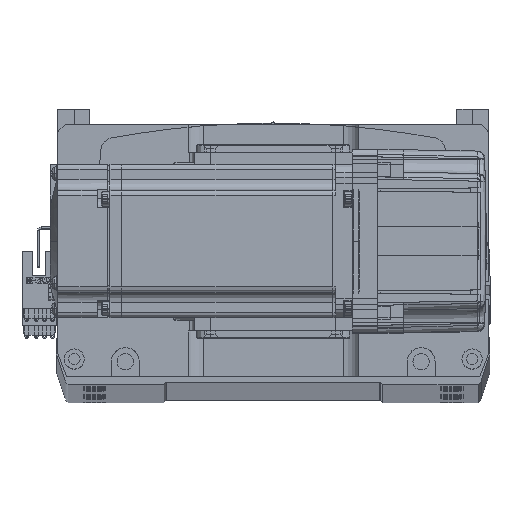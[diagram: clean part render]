
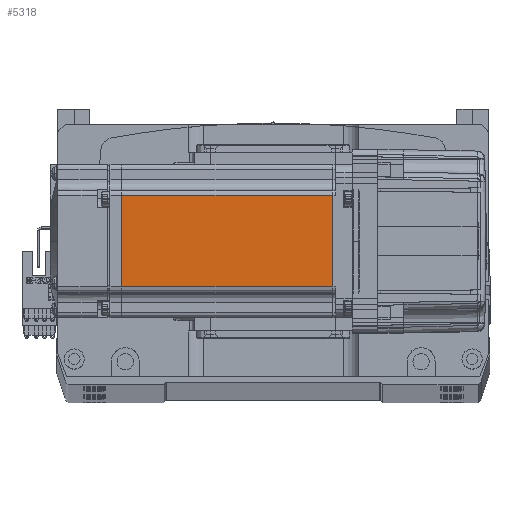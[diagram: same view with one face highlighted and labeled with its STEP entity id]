
A CAD part, top view. The second image highlights one B-rep face of the part: STEP entity #5318.
In plain terms, the highlighted planar face has unit normal (0, 0, 1).
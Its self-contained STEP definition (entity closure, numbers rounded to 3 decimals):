
#3346 = EDGE_CURVE ( 'NONE', #3521, #61384, #14240, .T. ) ;
#3521 = VERTEX_POINT ( 'NONE', #52828 ) ;
#4396 = VECTOR ( 'NONE', #50860, 1000. ) ;
#5318 = ADVANCED_FACE ( 'NONE', ( #5755 ), #22560, .T. ) ;
#5755 = FACE_OUTER_BOUND ( 'NONE', #68441, .T. ) ;
#10872 = EDGE_CURVE ( 'NONE', #41027, #48404, #28262, .T. ) ;
#10911 = DIRECTION ( 'NONE',  ( 0., 0., 1. ) ) ;
#11793 = AXIS2_PLACEMENT_3D ( 'NONE', #33220, #10911, #28409 ) ;
#12880 = EDGE_CURVE ( 'NONE', #61384, #48404, #65884, .T. ) ;
#14240 = LINE ( 'NONE', #67937, #37790 ) ;
#15272 = ORIENTED_EDGE ( 'NONE', *, *, #12880, .T. ) ;
#20749 = DIRECTION ( 'NONE',  ( -1., 0., 0. ) ) ;
#20957 = DIRECTION ( 'NONE',  ( -1., 0., 0. ) ) ;
#22560 = PLANE ( 'NONE',  #11793 ) ;
#28262 = LINE ( 'NONE', #50147, #32762 ) ;
#28409 = DIRECTION ( 'NONE',  ( 1., 0., 0. ) ) ;
#32762 = VECTOR ( 'NONE', #20749, 1000. ) ;
#33220 = CARTESIAN_POINT ( 'NONE',  ( -6.5, -25., 30. ) ) ;
#35819 = DIRECTION ( 'NONE',  ( 0., -1., 0. ) ) ;
#37790 = VECTOR ( 'NONE', #20957, 1000. ) ;
#37798 = ORIENTED_EDGE ( 'NONE', *, *, #3346, .T. ) ;
#41027 = VERTEX_POINT ( 'NONE', #55324 ) ;
#43154 = VECTOR ( 'NONE', #35819, 1000. ) ;
#48404 = VERTEX_POINT ( 'NONE', #62162 ) ;
#50147 = CARTESIAN_POINT ( 'NONE',  ( -6.5, -18., 30. ) ) ;
#50531 = CARTESIAN_POINT ( 'NONE',  ( -90.45, 18., 30. ) ) ;
#50860 = DIRECTION ( 'NONE',  ( 0., -1., 0. ) ) ;
#52828 = CARTESIAN_POINT ( 'NONE',  ( -7.75, 18., 30. ) ) ;
#55324 = CARTESIAN_POINT ( 'NONE',  ( -7.75, -18., 30. ) ) ;
#55639 = CARTESIAN_POINT ( 'NONE',  ( -90.45, 0., 30. ) ) ;
#57275 = ORIENTED_EDGE ( 'NONE', *, *, #10872, .F. ) ;
#58560 = EDGE_CURVE ( 'NONE', #3521, #41027, #69314, .T. ) ;
#59021 = CARTESIAN_POINT ( 'NONE',  ( -7.75, 0., 30. ) ) ;
#61384 = VERTEX_POINT ( 'NONE', #50531 ) ;
#62162 = CARTESIAN_POINT ( 'NONE',  ( -90.45, -18., 30. ) ) ;
#63036 = ORIENTED_EDGE ( 'NONE', *, *, #58560, .F. ) ;
#65884 = LINE ( 'NONE', #55639, #4396 ) ;
#67937 = CARTESIAN_POINT ( 'NONE',  ( -6.5, 18., 30. ) ) ;
#68441 = EDGE_LOOP ( 'NONE', ( #63036, #37798, #15272, #57275 ) ) ;
#69314 = LINE ( 'NONE', #59021, #43154 ) ;
